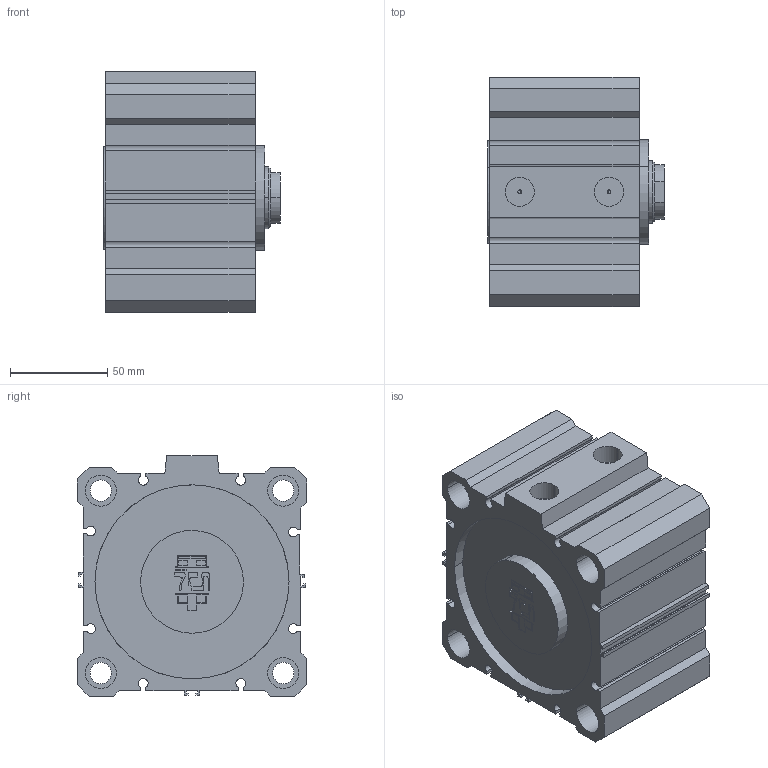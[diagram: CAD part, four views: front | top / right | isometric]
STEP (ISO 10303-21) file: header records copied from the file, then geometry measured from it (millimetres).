
FILE_DESCRIPTION(('CATIA V5 STEP Exchange'),'2;1');
FILE_NAME('D:\PDA\PDA-STP\PDA 100-32\PDA 100-32-20.stp','2016-02-02T11:06:41+00:00',('none'),('none'),'Version 5-6 Release 2012','CATIA V5 STEP AP203','none');
FILE_SCHEMA(('CONFIG_CONTROL_DESIGN'));
Length unit declared in the file: millimetre
Products named in the file (1): PDA 100-32-20-00
Assembly tree (2 placements, depth 2):
  PDA 100-32-20-00
    #58
    #7695
Bounding box: 91 x 118 x 124 mm (x, y, z)
Volume: 694269.8 mm3; surface area: 149594.4 mm2
Topology: 2 solids, 2 shells, 284 faces, 744 edges, 498 vertices
Faces by surface type: plane 202, cylinder 80, cone 2
Entity records: 8167 total; most frequent: ORIENTED_EDGE 1488, CARTESIAN_POINT 1432, DIRECTION 1124, EDGE_CURVE 744, VECTOR 574, LINE 574, VERTEX_POINT 498, AXIS2_PLACEMENT_3D 360
